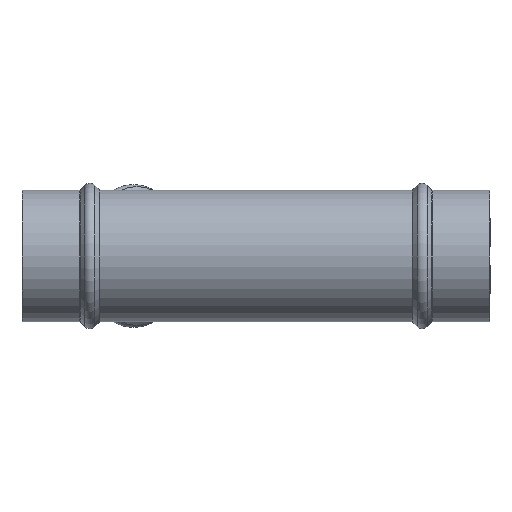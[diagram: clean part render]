
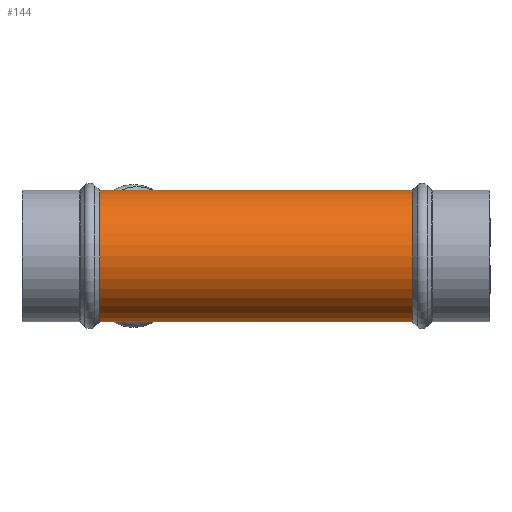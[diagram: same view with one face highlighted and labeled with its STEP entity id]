
A CAD part, front view. The second image highlights one B-rep face of the part: STEP entity #144.
In plain terms, the highlighted cylindrical face has radius 33.5 mm (diameter 67 mm), a full revolution.
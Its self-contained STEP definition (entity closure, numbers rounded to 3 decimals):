
#100=CYLINDRICAL_SURFACE('',#633,33.5);
#144=ADVANCED_FACE('',(#229,#230,#231),#100,.T.);
#185=B_SPLINE_CURVE_WITH_KNOTS('',3,(#911,#912,#913,#914,#915,#916,#917,
#918,#919,#920,#921,#922,#923,#924,#925,#926,#927,#928,#929,#930,#931,#932,
#933,#934,#935,#936,#937,#938,#939,#940,#941,#942),.UNSPECIFIED.,.F.,.F.,
(4,2,2,2,2,2,2,2,2,2,2,2,2,2,2,4),(0.,0.063,0.125,0.25,
0.313,0.375,0.438,0.469,
0.5,0.531,0.563,0.625,
0.75,0.875,0.938,1.),.UNSPECIFIED.);
#186=B_SPLINE_CURVE_WITH_KNOTS('',3,(#945,#946,#947,#948,#949,#950,#951,
#952,#953,#954,#955,#956,#957,#958,#959,#960,#961,#962,#963,#964,#965,#966,
#967,#968,#969,#970),.UNSPECIFIED.,.F.,.F.,(4,2,2,2,2,2,2,2,2,2,2,2,4),(0.,
0.125,0.25,0.313,0.375,0.438,0.5,0.625,0.688,0.75,0.875,0.938,1.),.UNSPECIFIED.);
#229=FACE_BOUND('',#317,.T.);
#230=FACE_BOUND('',#318,.T.);
#231=FACE_BOUND('',#319,.T.);
#317=EDGE_LOOP('',(#407,#408));
#318=EDGE_LOOP('',(#409));
#319=EDGE_LOOP('',(#410));
#407=ORIENTED_EDGE('',*,*,#505,.T.);
#408=ORIENTED_EDGE('',*,*,#504,.T.);
#409=ORIENTED_EDGE('',*,*,#525,.T.);
#410=ORIENTED_EDGE('',*,*,#526,.F.);
#458=VERTEX_POINT('',#943);
#459=VERTEX_POINT('',#944);
#479=VERTEX_POINT('',#1029);
#480=VERTEX_POINT('',#1032);
#504=EDGE_CURVE('',#458,#459,#185,.T.);
#505=EDGE_CURVE('',#459,#458,#186,.T.);
#525=EDGE_CURVE('',#479,#479,#567,.T.);
#526=EDGE_CURVE('',#480,#480,#568,.T.);
#567=CIRCLE('',#630,33.5);
#568=CIRCLE('',#632,33.5);
#630=AXIS2_PLACEMENT_3D('',#1028,#757,#758);
#632=AXIS2_PLACEMENT_3D('',#1031,#761,#762);
#633=AXIS2_PLACEMENT_3D('',#1033,#763,#764);
#757=DIRECTION('',(1.,0.,0.));
#758=DIRECTION('',(0.,1.,0.));
#761=DIRECTION('',(1.,0.,0.));
#762=DIRECTION('',(0.,1.,0.));
#763=DIRECTION('',(1.,0.,0.));
#764=DIRECTION('',(0.,1.,0.));
#911=CARTESIAN_POINT('',(163.,0.202,33.499));
#912=CARTESIAN_POINT('',(159.196,1.768,33.49));
#913=CARTESIAN_POINT('',(155.341,3.355,33.369));
#914=CARTESIAN_POINT('',(147.724,6.491,32.903));
#915=CARTESIAN_POINT('',(143.929,8.054,32.558));
#916=CARTESIAN_POINT('',(132.589,12.723,31.16));
#917=CARTESIAN_POINT('',(125.087,15.811,29.764));
#918=CARTESIAN_POINT('',(113.96,20.393,26.642));
#919=CARTESIAN_POINT('',(110.262,21.915,25.421));
#920=CARTESIAN_POINT('',(103.094,24.866,22.542));
#921=CARTESIAN_POINT('',(99.604,26.303,20.888));
#922=CARTESIAN_POINT('',(92.937,29.048,16.864));
#923=CARTESIAN_POINT('',(89.679,30.389,14.463));
#924=CARTESIAN_POINT('',(85.662,32.043,9.904));
#925=CARTESIAN_POINT('',(84.464,32.536,8.202));
#926=CARTESIAN_POINT('',(82.715,33.257,4.458));
#927=CARTESIAN_POINT('',(82.167,33.482,2.387));
#928=CARTESIAN_POINT('',(82.086,33.516,-1.858));
#929=CARTESIAN_POINT('',(82.557,33.322,-3.956));
#930=CARTESIAN_POINT('',(84.199,32.646,-7.761));
#931=CARTESIAN_POINT('',(85.358,32.169,-9.493));
#932=CARTESIAN_POINT('',(89.285,30.552,-14.126));
#933=CARTESIAN_POINT('',(92.514,29.222,-16.567));
#934=CARTESIAN_POINT('',(102.562,25.085,-22.751));
#935=CARTESIAN_POINT('',(109.954,22.042,-25.499));
#936=CARTESIAN_POINT('',(124.802,15.929,-29.703));
#937=CARTESIAN_POINT('',(132.34,12.825,-31.121));
#938=CARTESIAN_POINT('',(143.766,8.121,-32.542));
#939=CARTESIAN_POINT('',(147.595,6.544,-32.894));
#940=CARTESIAN_POINT('',(155.292,3.376,-33.368));
#941=CARTESIAN_POINT('',(159.196,1.768,-33.49));
#942=CARTESIAN_POINT('',(163.,0.202,-33.499));
#943=CARTESIAN_POINT('',(163.,0.202,33.499));
#944=CARTESIAN_POINT('',(163.,0.202,-33.499));
#945=CARTESIAN_POINT('',(163.,0.202,-33.499));
#946=CARTESIAN_POINT('',(164.721,4.382,-33.474));
#947=CARTESIAN_POINT('',(166.447,8.574,-32.665));
#948=CARTESIAN_POINT('',(169.71,16.498,-29.467));
#949=CARTESIAN_POINT('',(171.203,20.126,-27.136));
#950=CARTESIAN_POINT('',(173.147,24.846,-22.576));
#951=CARTESIAN_POINT('',(173.73,26.262,-20.914));
#952=CARTESIAN_POINT('',(174.763,28.771,-17.3));
#953=CARTESIAN_POINT('',(175.218,29.876,-15.32));
#954=CARTESIAN_POINT('',(175.949,31.652,-11.201));
#955=CARTESIAN_POINT('',(176.228,32.33,-9.064));
#956=CARTESIAN_POINT('',(176.609,33.256,-4.63));
#957=CARTESIAN_POINT('',(176.708,33.495,-2.33));
#958=CARTESIAN_POINT('',(176.713,33.509,4.463));
#959=CARTESIAN_POINT('',(176.327,32.571,9.028));
#960=CARTESIAN_POINT('',(175.24,29.93,15.215));
#961=CARTESIAN_POINT('',(174.788,28.831,17.201));
#962=CARTESIAN_POINT('',(173.754,26.322,20.84));
#963=CARTESIAN_POINT('',(173.17,24.904,22.514));
#964=CARTESIAN_POINT('',(171.22,20.167,27.109));
#965=CARTESIAN_POINT('',(169.714,16.508,29.459));
#966=CARTESIAN_POINT('',(167.278,10.592,31.853));
#967=CARTESIAN_POINT('',(166.446,8.573,32.453));
#968=CARTESIAN_POINT('',(164.746,4.443,33.271));
#969=CARTESIAN_POINT('',(163.86,2.292,33.487));
#970=CARTESIAN_POINT('',(163.,0.202,33.499));
#1028=CARTESIAN_POINT('',(39.657,0.,0.));
#1029=CARTESIAN_POINT('',(39.657,33.5,0.));
#1031=CARTESIAN_POINT('',(198.343,0.,0.));
#1032=CARTESIAN_POINT('',(198.343,33.5,0.));
#1033=CARTESIAN_POINT('',(0.,0.,0.));
